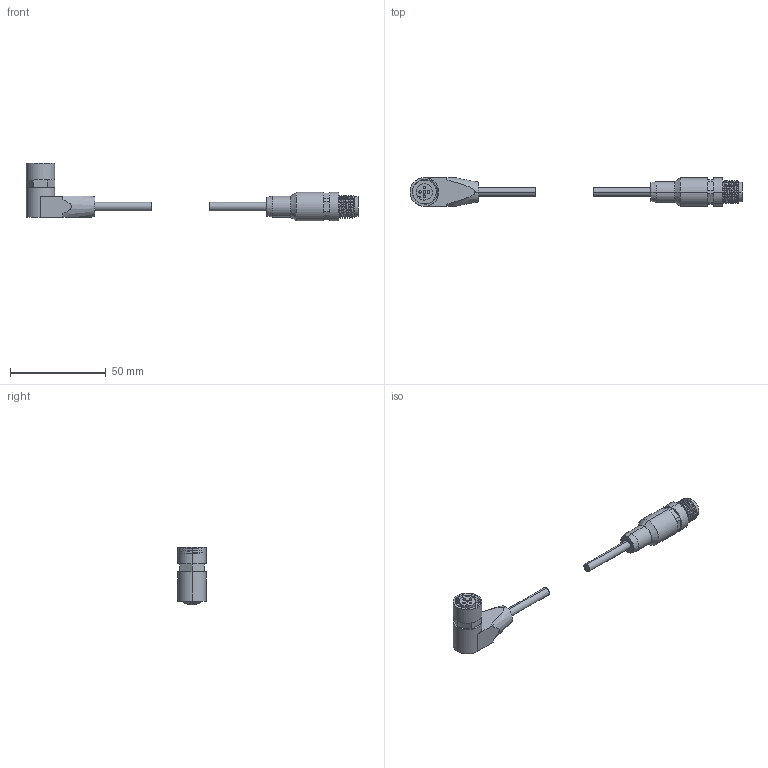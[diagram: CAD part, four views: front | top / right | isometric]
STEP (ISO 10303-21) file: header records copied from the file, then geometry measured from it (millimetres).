
FILE_DESCRIPTION (( 'STEP AP214' ), '1' );
FILE_NAME ('BKU4D1_.STEP', '2025-04-29T01:13:29', ( '' ), ( '' ), 'SwSTEP 2.0', 'SolidWorks 2022', '' );
FILE_SCHEMA (( 'AUTOMOTIVE_DESIGN' ));
Length unit declared in the file: millimetre
Products named in the file (3): BKU4D1_; BKU4D
Assembly tree (2 placements, depth 2):
  BKU4D1_
    BKU4D
    BKU4D1_
Bounding box: 173.5 x 15 x 30.3 mm (x, y, z)
Volume: 14416.1 mm3; surface area: 6757.7 mm2
Topology: 2 solids, 2 shells, 136 faces, 331 edges, 212 vertices
Faces by surface type: cylinder 64, plane 52, sphere 8, cone 6, bspline 6
Entity records: 6597 total; most frequent: CARTESIAN_POINT 3452, ORIENTED_EDGE 638, DIRECTION 633, EDGE_CURVE 319, AXIS2_PLACEMENT_3D 242, VERTEX_POINT 208, EDGE_LOOP 157, VECTOR 149
